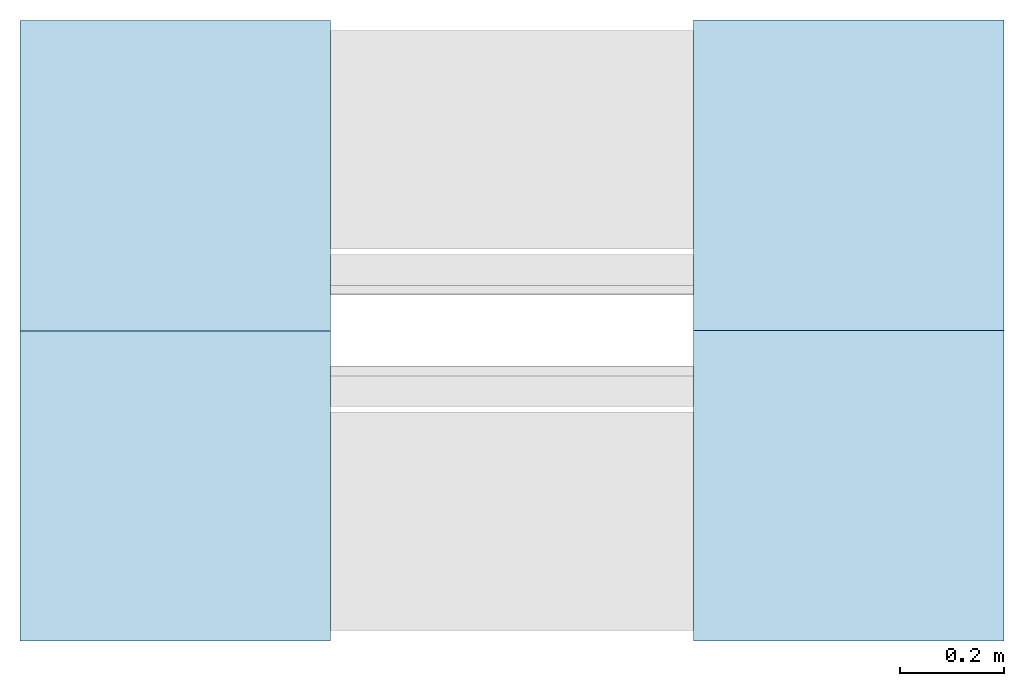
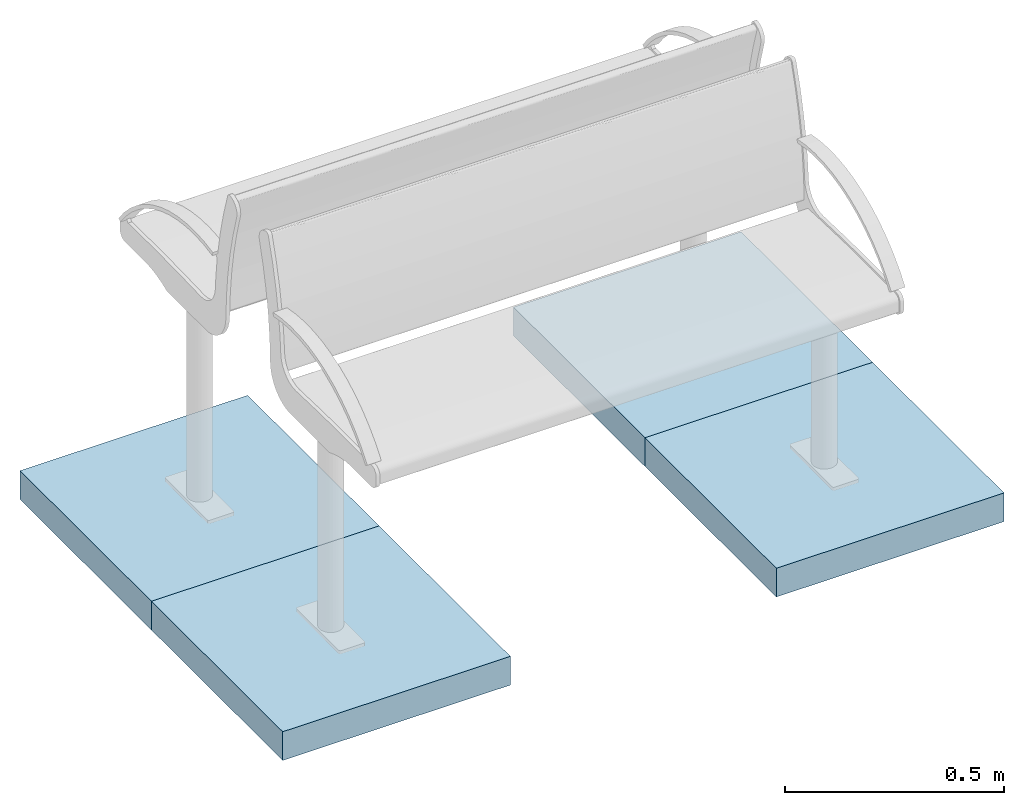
# One storey, incomplete: 4 slabs.
"""IFC4 building model written with IfcOpenShell, lengths in metres."""

from ifc_helpers import new_model, entity, si_unit, converted_unit, direction, frame, frame_2d, origin, place, context, subcontext, project, spatial, rectangle, extrude, material, type_object, element, save


model = new_model("IFC4")

# Units and contexts
model_context = context("Model", 3, precision=1e-05, world=origin(), true_north=direction((6.123031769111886e-17, 1.0)))
body_context = subcontext(model_context, "Body", "Model", "MODEL_VIEW")
ifc_project = project(units=[si_unit("LENGTHUNIT", "METRE"), converted_unit("PLANEANGLEUNIT", "DEGREE", entity("IfcPlaneAngleMeasure", 0.017453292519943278), si_unit("PLANEANGLEUNIT", "RADIAN"), dimensions=[0, 0, 0, 0, 0, 0, 0]), si_unit("AREAUNIT", "SQUARE_METRE")], contexts=[model_context])

# Site, building, storey
site_placement = place(None, origin())
site = spatial("IfcSite", under=ifc_project, at=site_placement, Name="Default", CompositionType="ELEMENT")
building_placement = place(site_placement, origin())
building = spatial("IfcBuilding", under=site, at=building_placement, CompositionType="ELEMENT")
storey_placement = place(building_placement, origin())
storey = spatial("IfcBuildingStorey", under=building, at=storey_placement, Name="DB_Bezugshoehe_max_Bahnsteigkante", CompositionType="ELEMENT", Elevation=0.0)

# Slabs
ifc_material = material(Name="DB_Fertigbeton", Category="DB_Beton")
slab_type = type_object("IfcSlabType", Name="DB_Sitzbank_Fundament:DB_Sitzbank_Fundament", PredefinedType="BASESLAB", material=ifc_material)
slab_1_placement = place(storey_placement, origin())
element("IfcSlab", 1, at=slab_1_placement, inside=storey, type_object=slab_type, Name="DB_Sitzbank_Fundament:DB_Sitzbank_Fundament", ObjectType="DB_Sitzbank_Fundament:DB_Sitzbank_Fundament", PredefinedType="BASESLAB", context=body_context, shape_type="SweptSolid", body=[
    extrude(rectangle(XDim=0.5999999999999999, YDim=0.5999999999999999, at=frame_2d((0.0, 8.326672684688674e-17), x_axis=(1.0, 0.0))), frame((0.6504999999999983, -0.29999999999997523, -0.25), z_axis=(0.0, 0.0, 1.0), x_axis=(0.0, 1.0, 0.0)), (0.0, 0.0, 1.0), 0.08000000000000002),
])
slab_2_placement = place(storey_placement, origin())
element("IfcSlab", 2, at=slab_2_placement, inside=storey, type_object=slab_type, Name="DB_Sitzbank_Fundament:DB_Sitzbank_Fundament", ObjectType="DB_Sitzbank_Fundament:DB_Sitzbank_Fundament", PredefinedType="BASESLAB", context=body_context, shape_type="SweptSolid", body=[
    extrude(rectangle(XDim=0.5999999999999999, YDim=0.5999999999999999, at=frame_2d((0.0, 8.326672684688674e-17), x_axis=(1.0, 0.0))), frame((0.6504999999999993, 0.30000000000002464, -0.25), z_axis=(0.0, 0.0, 1.0), x_axis=(0.0, 1.0, 0.0)), (0.0, 0.0, 1.0), 0.08000000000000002),
])
slab_3_placement = place(storey_placement, origin())
element("IfcSlab", 3, at=slab_3_placement, inside=storey, type_object=slab_type, Name="DB_Sitzbank_Fundament:DB_Sitzbank_Fundament", ObjectType="DB_Sitzbank_Fundament:DB_Sitzbank_Fundament", PredefinedType="BASESLAB", context=body_context, shape_type="SweptSolid", body=[
    extrude(rectangle(XDim=0.5999999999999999, YDim=0.5999999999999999, at=frame_2d((0.0, 8.326672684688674e-17), x_axis=(1.0, 0.0))), frame((-0.6505000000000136, 0.299497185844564, -0.25), z_axis=(0.0, 0.0, 1.0), x_axis=(0.0, 1.0, 0.0)), (0.0, 0.0, 1.0), 0.08000000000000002),
])
slab_4_placement = place(storey_placement, origin())
element("IfcSlab", 4, at=slab_4_placement, inside=storey, type_object=slab_type, Name="DB_Sitzbank_Fundament:DB_Sitzbank_Fundament", ObjectType="DB_Sitzbank_Fundament:DB_Sitzbank_Fundament", PredefinedType="BASESLAB", context=body_context, shape_type="SweptSolid", body=[
    extrude(rectangle(XDim=0.5994971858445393, YDim=0.5999999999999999, at=frame_2d((0.0, 8.326672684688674e-17), x_axis=(1.0, 0.0))), frame((-0.6505000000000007, -0.3002514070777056, -0.25), z_axis=(0.0, 0.0, 1.0), x_axis=(0.0, 1.0, 0.0)), (0.0, 0.0, 1.0), 0.08000000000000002),
])

save(model, "model.ifc")
